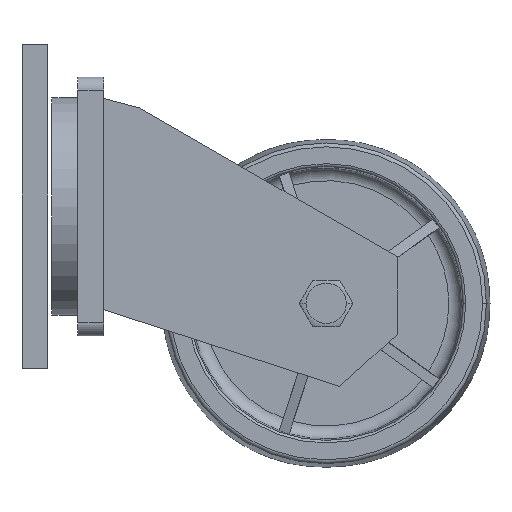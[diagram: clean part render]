
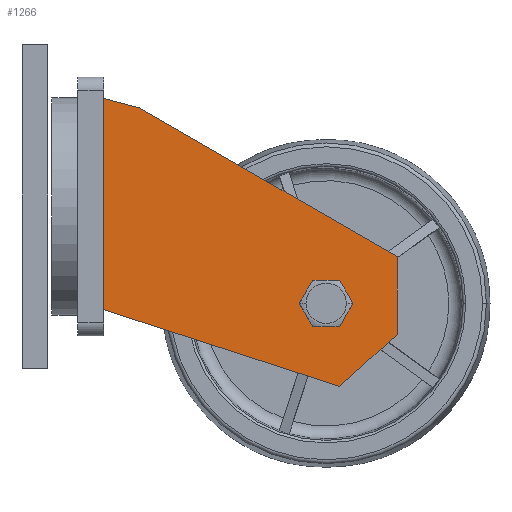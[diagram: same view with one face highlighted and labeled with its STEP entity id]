
A CAD part, left-side view. The second image highlights one B-rep face of the part: STEP entity #1266.
In plain terms, the highlighted planar face has unit normal (-1, 0, 0) as drawn and (0, 0, 1) by its records, which use the part's own axes.
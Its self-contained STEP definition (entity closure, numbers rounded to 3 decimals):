
#1063=DIRECTION('',(0.309,0.951,0.));
#1064=VECTOR('',#1063,191.799);
#1065=CARTESIAN_POINT('',(-112.757,20.792,16.));
#1066=LINE('',#1065,#1064);
#1067=DIRECTION('',(1.,0.,0.));
#1068=VECTOR('',#1067,163.298);
#1069=CARTESIAN_POINT('',(-53.488,203.204,16.));
#1070=LINE('',#1069,#1068);
#1071=DIRECTION('',(-0.259,-0.966,0.));
#1072=VECTOR('',#1071,28.908);
#1073=CARTESIAN_POINT('',(109.81,203.204,16.));
#1074=LINE('',#1073,#1072);
#1075=DIRECTION('',(-0.5,-0.866,0.));
#1076=VECTOR('',#1075,229.875);
#1077=CARTESIAN_POINT('',(102.329,175.281,16.));
#1078=LINE('',#1077,#1076);
#1079=DIRECTION('',(-1.,0.,0.));
#1080=VECTOR('',#1079,60.);
#1081=CARTESIAN_POINT('',(-12.609,-23.796,16.));
#1082=LINE('',#1081,#1080);
#1083=DIRECTION('',(-0.669,0.743,0.));
#1084=VECTOR('',#1083,60.);
#1085=CARTESIAN_POINT('',(-72.609,-23.796,16.));
#1086=LINE('',#1085,#1084);
#1087=CARTESIAN_POINT('',(-48.626,31.204,16.));
#1088=DIRECTION('',(0.,0.,1.));
#1089=DIRECTION('',(-1.,0.,0.));
#1090=AXIS2_PLACEMENT_3D('',#1087,#1088,#1089);
#1092=CARTESIAN_POINT('',(-48.626,31.204,16.));
#1093=DIRECTION('',(0.,0.,1.));
#1094=DIRECTION('',(1.,0.,0.));
#1095=AXIS2_PLACEMENT_3D('',#1092,#1093,#1094);
#1121=CARTESIAN_POINT('',(-36.626,31.204,16.));
#1122=VERTEX_POINT('',#1121);
#1123=CARTESIAN_POINT('',(-60.626,31.204,16.));
#1124=VERTEX_POINT('',#1123);
#1125=CARTESIAN_POINT('',(-112.757,20.792,16.));
#1126=CARTESIAN_POINT('',(-53.488,203.204,16.));
#1127=VERTEX_POINT('',#1125);
#1128=VERTEX_POINT('',#1126);
#1129=CARTESIAN_POINT('',(109.81,203.204,16.));
#1130=VERTEX_POINT('',#1129);
#1131=CARTESIAN_POINT('',(102.329,175.281,16.));
#1132=VERTEX_POINT('',#1131);
#1133=CARTESIAN_POINT('',(-12.609,-23.796,16.));
#1134=VERTEX_POINT('',#1133);
#1135=CARTESIAN_POINT('',(-72.609,-23.796,16.));
#1136=VERTEX_POINT('',#1135);
#1247=CARTESIAN_POINT('',(0.,0.,16.));
#1248=DIRECTION('',(0.,0.,1.));
#1249=DIRECTION('',(1.,0.,0.));
#1250=AXIS2_PLACEMENT_3D('',#1247,#1248,#1249);
#1251=PLANE('',#1250);
#1252=ORIENTED_EDGE('',*,*,#1171,.T.);
#1253=ORIENTED_EDGE('',*,*,#1186,.T.);
#1254=ORIENTED_EDGE('',*,*,#1200,.T.);
#1255=ORIENTED_EDGE('',*,*,#1214,.T.);
#1256=ORIENTED_EDGE('',*,*,#1228,.T.);
#1257=ORIENTED_EDGE('',*,*,#1241,.T.);
#1258=EDGE_LOOP('',(#1252,#1253,#1254,#1255,#1256,#1257));
#1259=FACE_OUTER_BOUND('',#1258,.F.);
#1261=ORIENTED_EDGE('',*,*,#1260,.T.);
#1263=ORIENTED_EDGE('',*,*,#1262,.T.);
#1264=EDGE_LOOP('',(#1261,#1263));
#1265=FACE_BOUND('',#1264,.F.);
#1091=CIRCLE('',#1090,12.);
#1096=CIRCLE('',#1095,12.);
#1171=EDGE_CURVE('',#1127,#1128,#1066,.T.);
#1186=EDGE_CURVE('',#1128,#1130,#1070,.T.);
#1200=EDGE_CURVE('',#1130,#1132,#1074,.T.);
#1214=EDGE_CURVE('',#1132,#1134,#1078,.T.);
#1228=EDGE_CURVE('',#1134,#1136,#1082,.T.);
#1241=EDGE_CURVE('',#1136,#1127,#1086,.T.);
#1260=EDGE_CURVE('',#1124,#1122,#1091,.T.);
#1262=EDGE_CURVE('',#1122,#1124,#1096,.T.);
#1266=ADVANCED_FACE('',(#1259,#1265),#1251,.T.);
